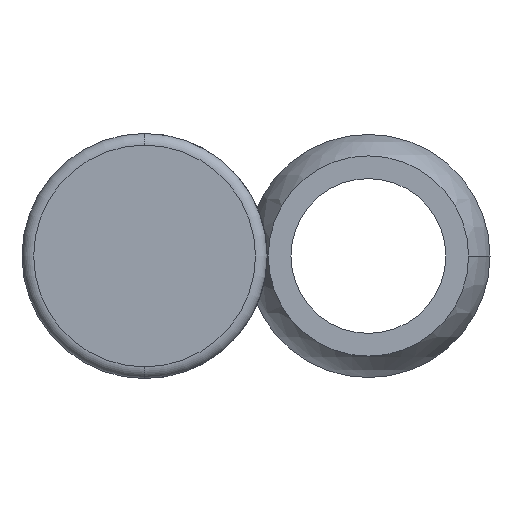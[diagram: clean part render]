
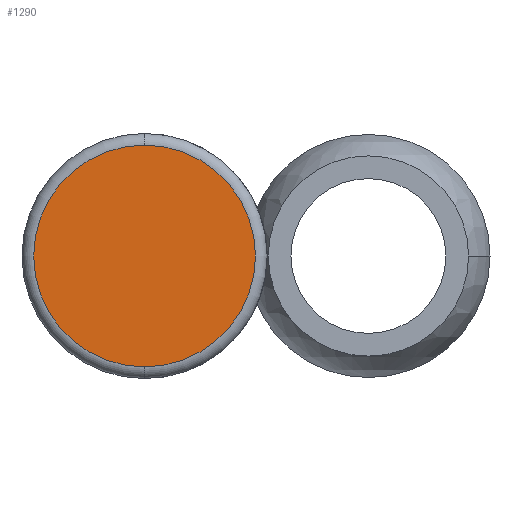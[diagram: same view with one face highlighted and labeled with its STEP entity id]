
A CAD part, front view. The second image highlights one B-rep face of the part: STEP entity #1290.
In plain terms, the highlighted planar face has unit normal (0, -1, 0).
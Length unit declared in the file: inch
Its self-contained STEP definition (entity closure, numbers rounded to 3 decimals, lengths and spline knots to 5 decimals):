
#29 = PLANE ( 'NONE',  #1346 ) ;
#49 = CIRCLE ( 'NONE', #1146, 0.28496 ) ;
#134 = EDGE_LOOP ( 'NONE', ( #705, #1092 ) ) ;
#137 = FACE_OUTER_BOUND ( 'NONE', #134, .T. ) ;
#142 = CARTESIAN_POINT ( 'NONE',  ( 0., -1.063, 0. ) ) ;
#212 = DIRECTION ( 'NONE',  ( 0., 0., 1. ) ) ;
#252 = VERTEX_POINT ( 'NONE', #772 ) ;
#295 = CARTESIAN_POINT ( 'NONE',  ( 0., -1.063, 0.28496 ) ) ;
#350 = DIRECTION ( 'NONE',  ( 0., 0., 1. ) ) ;
#368 = VERTEX_POINT ( 'NONE', #295 ) ;
#513 = AXIS2_PLACEMENT_3D ( 'NONE', #602, #1138, #212 ) ;
#602 = CARTESIAN_POINT ( 'NONE',  ( 0., -1.063, 0. ) ) ;
#639 = DIRECTION ( 'NONE',  ( 0., 1., 0. ) ) ;
#665 = CIRCLE ( 'NONE', #513, 0.28496 ) ;
#705 = ORIENTED_EDGE ( 'NONE', *, *, #1258, .T. ) ;
#750 = DIRECTION ( 'NONE',  ( 0., 0., 1. ) ) ;
#767 = DIRECTION ( 'NONE',  ( 0., -1., 0. ) ) ;
#772 = CARTESIAN_POINT ( 'NONE',  ( 0., -1.063, -0.28496 ) ) ;
#974 = CARTESIAN_POINT ( 'NONE',  ( 0., -1.063, 0. ) ) ;
#993 = EDGE_CURVE ( 'NONE', #252, #368, #665, .T. ) ;
#1092 = ORIENTED_EDGE ( 'NONE', *, *, #993, .T. ) ;
#1138 = DIRECTION ( 'NONE',  ( 0., -1., 0. ) ) ;
#1146 = AXIS2_PLACEMENT_3D ( 'NONE', #974, #767, #350 ) ;
#1258 = EDGE_CURVE ( 'NONE', #368, #252, #49, .T. ) ;
#1290 = ADVANCED_FACE ( 'NONE', ( #137 ), #29, .F. ) ;
#1346 = AXIS2_PLACEMENT_3D ( 'NONE', #142, #639, #750 ) ;
